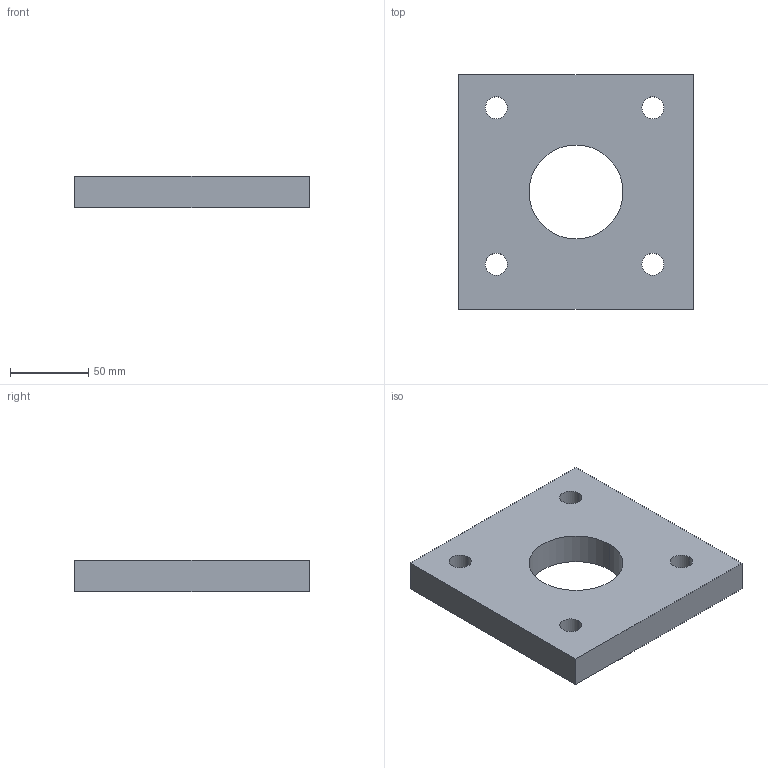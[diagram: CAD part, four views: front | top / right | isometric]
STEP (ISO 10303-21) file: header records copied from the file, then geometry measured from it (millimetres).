
FILE_DESCRIPTION (( 'STEP AP214' ), '1' );
FILE_NAME ('3D3.PC63.STEP', '2014-02-10T08:44:49', ( 'usuario' ), ( 'Hewlett-Packard Company' ), 'SwSTEP 2.0', 'SolidWorks 2017', '' );
FILE_SCHEMA (( 'AUTOMOTIVE_DESIGN' ));
Length unit declared in the file: millimetre
Products named in the file (1): 3D3.PC63
Bounding box: 150 x 150 x 20 mm (x, y, z)
Volume: 381136.3 mm3; surface area: 57402.1 mm2
Topology: 1 solids, 1 shells, 16 faces, 42 edges, 28 vertices
Faces by surface type: cylinder 10, plane 6
Entity records: 648 total; most frequent: DIRECTION 96, CARTESIAN_POINT 87, ORIENTED_EDGE 84, EDGE_CURVE 42, AXIS2_PLACEMENT_3D 37, VERTEX_POINT 28, EDGE_LOOP 26, LINE 22
